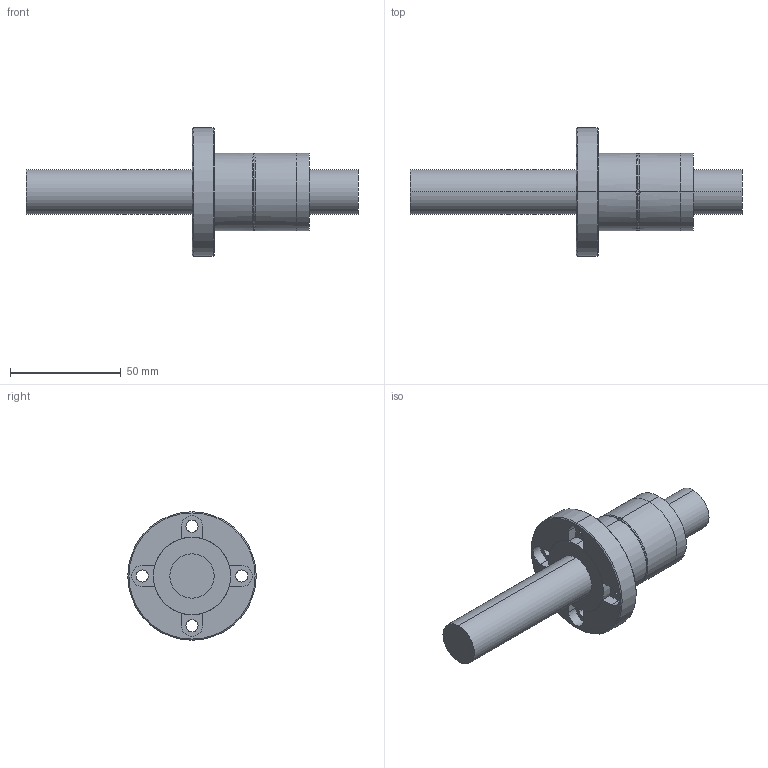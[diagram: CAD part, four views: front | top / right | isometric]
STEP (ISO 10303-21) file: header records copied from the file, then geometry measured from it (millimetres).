
FILE_DESCRIPTION (( 'STEP AP203' ), '1' );
FILE_NAME ('KLF020T4.STEP', '2023-08-17T07:26:40', ( '' ), ( '' ), 'SwSTEP 2.0', 'SolidWorks 2022', '' );
FILE_SCHEMA (( 'CONFIG_CONTROL_DESIGN' ));
Length unit declared in the file: millimetre
Products named in the file (5): 塑胶2^KLF020T4; 零件6^KLF020T4; 主体^KLF020T4; 塑胶1^KLF020T4; KLF020T4
Assembly tree (4 placements, depth 2):
  KLF020T4
    主体^KLF020T4
    塑胶1^KLF020T4
    塑胶2^KLF020T4
    零件6^KLF020T4
Bounding box: 150 x 58 x 58 mm (x, y, z)
Volume: 96080.3 mm3; surface area: 28974.1 mm2
Topology: 4 solids, 4 shells, 67 faces, 171 edges, 110 vertices
Faces by surface type: cylinder 37, plane 22, torus 4, cone 4
Entity records: 2720 total; most frequent: CARTESIAN_POINT 507, DIRECTION 379, ORIENTED_EDGE 342, EDGE_CURVE 171, AXIS2_PLACEMENT_3D 154, VERTEX_POINT 110, EDGE_LOOP 83, CIRCLE 80
